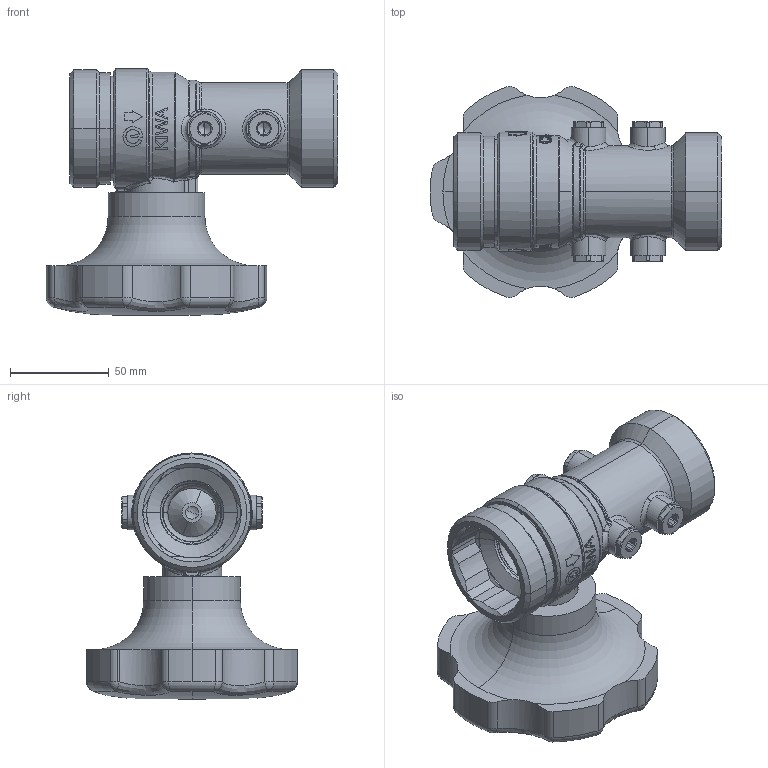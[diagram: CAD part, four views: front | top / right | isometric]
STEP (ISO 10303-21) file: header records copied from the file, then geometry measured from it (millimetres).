
FILE_DESCRIPTION (( 'STEP AP214' ), '1' );
FILE_NAME ('W228040244.STEP', '2018-09-17T07:21:00', ( '' ), ( '' ), 'SwSTEP 2.0', 'SolidWorks 2017', '' );
FILE_SCHEMA (( 'AUTOMOTIVE_DESIGN' ));
Length unit declared in the file: millimetre
Products named in the file (18): 22019352-House-IN040; W228040244; 22019352-JTlevre IN040; W098032200; 11338; W034040500_usin‚W034040512; 11334; W098032203; 22019352-Valve-IN040; W149040618; 22019352-Torpedo IN040; W092040312; W093003102; W022014070; W098040210_P627 4 pour 20 et 25; W022040070; 11317; 11337
Assembly tree (25 placements, depth 3):
  W228040244
    W034040500_usin‚W034040512
    W098040210_P627 4 pour 20 et 25
    11317  x2
    W098032200
    W098032203  x2
    W149040618
      22019352-Torpedo IN040
      22019352-JTlevre IN040
      22019352-House-IN040
      22019352-Valve-IN040
    W022040070
    W093003102  x4
    W022014070  x4
    11334
    11338
    11337
    W092040312
Bounding box: 148 x 107.08 x 124.8 mm (x, y, z)
Volume: 458789.3 mm3; surface area: 140951.1 mm2
Topology: 24 solids, 24 shells, 1276 faces, 3153 edges, 1942 vertices
Faces by surface type: plane 463, cylinder 325, cone 227, bspline 124, torus 107, sphere 30
Entity records: 40543 total; most frequent: CARTESIAN_POINT 14650, ORIENTED_EDGE 5308, DIRECTION 5177, EDGE_CURVE 2654, AXIS2_PLACEMENT_3D 2098, VERTEX_POINT 1652, EDGE_LOOP 1174, CIRCLE 1108
